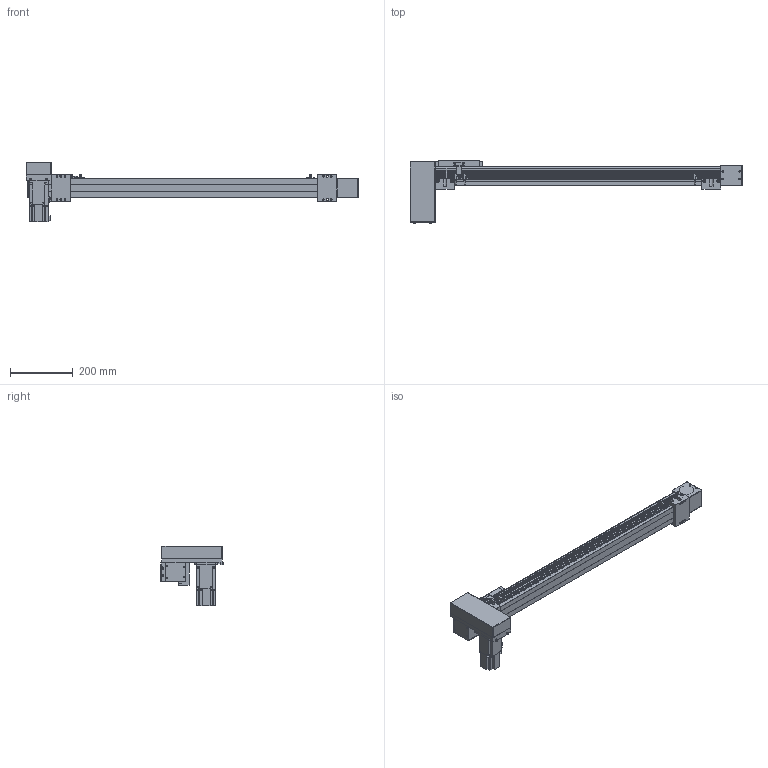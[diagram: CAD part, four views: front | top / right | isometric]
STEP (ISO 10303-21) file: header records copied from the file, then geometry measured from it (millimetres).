
FILE_DESCRIPTION(/* description */ ('STEP AP214'),/* implementation_level */ '2;1');
FILE_NAME(/* name */ 'SK60-P13-S750-RD-T40-C1-N(0)',/* time_stamp */ '2023-04-06T04:55:24+02:00',/* author */ ('License CC BY-ND 4.0'),/* organization */ ('CADENAS'),/* preprocessor_version */ 'ST-DEVELOPER v19.3',/* originating_system */ 'PARTsolutions',/* authorisation */ ' ');
FILE_SCHEMA (('AUTOMOTIVE_DESIGN {1 0 10303 214 3 1 1}'));
Length unit declared in the file: millimetre
Products named in the file (10): SK60-P13-S750-RD-T40-C1-N(0); PSC140-sensor; SK60-S450_seat; SK60-S450-BL-C1_slider; SK60_body3; SK60_body6; SK60-BL_body2; T40-p1; SK60-RD_fb; SK60-S750-RD-C1_body
Assembly tree (16 placements, depth 2):
  SK60-P13-S750-RD-T40-C1-N(0)
    PSC140-sensor  x3
    SK60-S450_seat  x2
    SK60-S450-BL-C1_slider
    SK60_body3  x3
    SK60_body6  x2
    SK60-BL_body2  x2
    T40-p1
    SK60-RD_fb
    SK60-S750-RD-C1_body
Bounding box: 1055.5 x 199 x 189.7 mm (x, y, z)
Volume: 4780641.4 mm3; surface area: 613511.2 mm2
Topology: 16 solids, 16 shells, 810 faces, 2048 edges, 1349 vertices
Faces by surface type: plane 524, cylinder 262, cone 22, torus 2
Full cylindrical faces by diameter (mm): 2.8 x3, 3.3 x4, 4 x2, 4.5 x30, 4.6 x3, 4.917 x16, 5 x6, 5.478 x4, 5.5 x19, 6.5 x4, 7 x2, 8 x4, 8.5 x4, 9.988 x4, 10 x8, 14 x1, 47 x3, 50 x2
Entity records: 18655 total; most frequent: DIRECTION 3184, CARTESIAN_POINT 3150, ORIENTED_EDGE 2940, EDGE_CURVE 1470, AXIS2_PLACEMENT_3D 1068, LINE 1048, VECTOR 1048, VERTEX_POINT 1034
